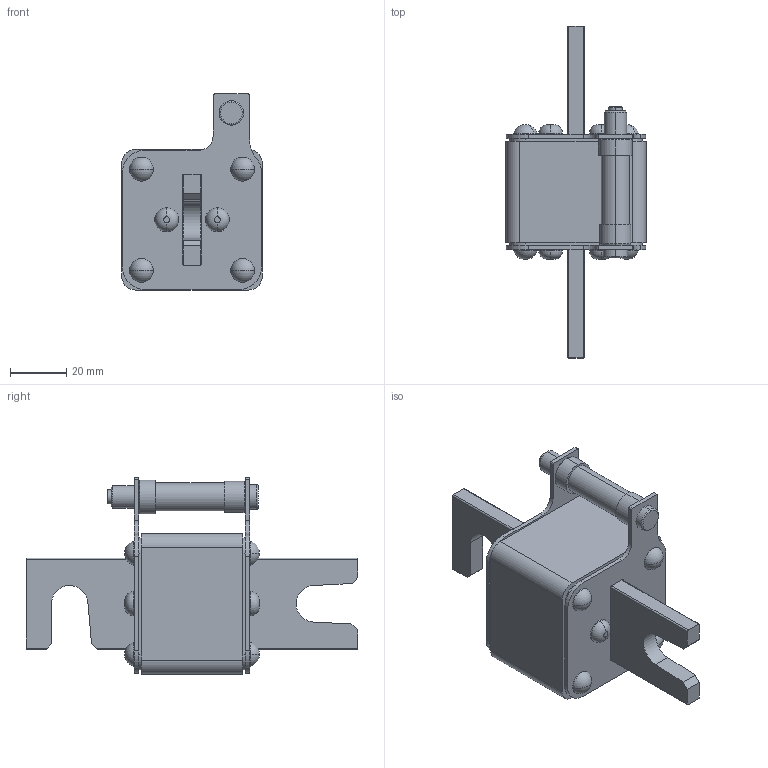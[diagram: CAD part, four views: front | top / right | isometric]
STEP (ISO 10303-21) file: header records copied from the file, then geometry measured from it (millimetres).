
FILE_DESCRIPTION (( 'STEP AP214' ), '1' );
FILE_NAME ('Ïðåäîõðàíèòåëü ÏÍÁ5Ì-380_630-1.STEP', '2023-04-21T06:51:56', ( '' ), ( '' ), 'SwSTEP 2.0', 'SolidWorks 2018', '' );
FILE_SCHEMA (( 'AUTOMOTIVE_DESIGN' ));
Length unit declared in the file: millimetre
Products named in the file (1): Ïðåäîõðàíèòåëü ÏÍÁ5Ì-380_630-1
Bounding box: 50 x 118 x 69.75 mm (x, y, z)
Volume: 117187.2 mm3; surface area: 25848.1 mm2
Topology: 1 solids, 24 shells, 376 faces, 840 edges, 538 vertices
Faces by surface type: cylinder 164, plane 126, torus 42, cone 28, sphere 16
Entity records: 14764 total; most frequent: DIRECTION 2062, CARTESIAN_POINT 1767, ORIENTED_EDGE 1680, AXIS2_PLACEMENT_3D 849, EDGE_CURVE 840, VERTEX_POINT 538, CIRCLE 472, EDGE_LOOP 428
